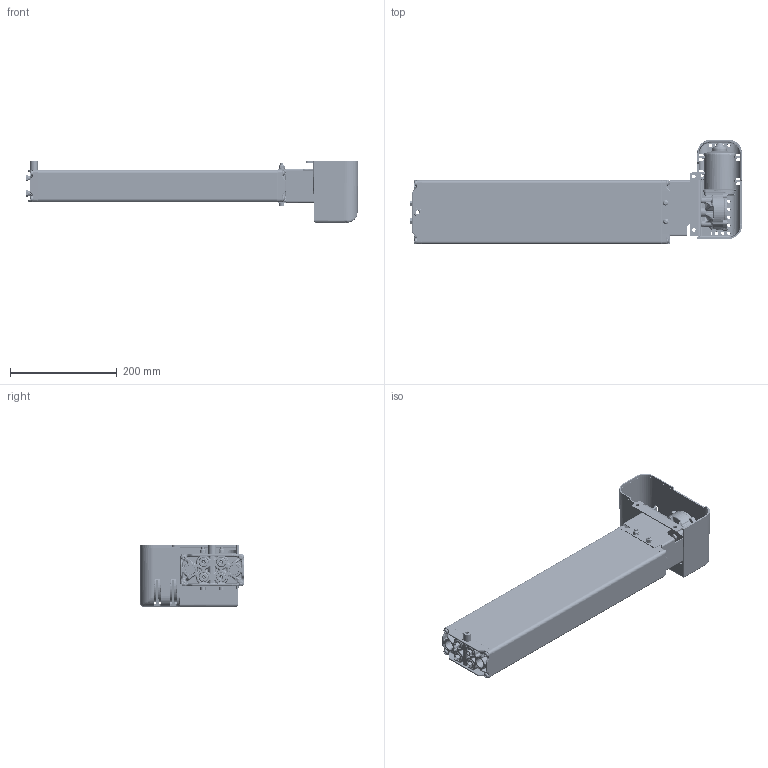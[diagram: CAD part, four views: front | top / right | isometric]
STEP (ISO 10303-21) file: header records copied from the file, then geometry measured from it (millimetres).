
FILE_DESCRIPTION(/* description */ ('Unknown'),/* implementation_level */ '2;1');
FILE_NAME(/* name */ '3X2.20003 Pumpe PB 4830 W mit Antrieb',/* time_stamp */ '2016-09-01T15:26:41+02:00',/* author */ ('Unknown'),/* organization */ ('Unknown'),/* preprocessor_version */ 'ST-DEVELOPER v16.7',/* originating_system */ 'DEX',/* authorisation */ $);
FILE_SCHEMA (('AUTOMOTIVE_DESIGN {1 0 10303 214 3 1 1}'));
Products named in the file (31): 102.20003; 115.00033; 125.00045; 115.00008; 142.00021; 125.00021; 142.00013; 125.00143; 115.00140; 126.00006; 122.00040; 119.00043; 126.00005; 127.00201; 127.00200; 127.00023; 124.00090; Getriebe; Ring; Schraube; Stator; Abdeckplatte; Antriebswelle; 128.00051; 123.00031; 142.00018; 142.00019; 142.00025; 142.00131; 123.00029; 142.00057
Assembly tree (45 placements, depth 3):
  102.20003
    115.00033  x4
      125.00045
      115.00008
      142.00021
      125.00021
    142.00013  x8
    125.00143
    115.00140
      126.00006
      122.00040
    119.00043
    126.00005
    127.00201
      127.00200
      127.00023
    124.00090
      Getriebe
      Ring
      Schraube
      Stator
      Abdeckplatte
      Antriebswelle
    128.00051
    123.00031
    142.00018  x2
    142.00019  x2
    142.00025  x2
    142.00131  x3
    123.00029
    142.00057
Bounding box: 623.42 x 196.04 x 115.45 mm (x, y, z)
Volume: 1110903.2 mm3; surface area: 711599 mm2
Topology: 46 solids, 48 shells, 4762 faces, 12086 edges, 7323 vertices
Faces by surface type: bspline 1367, plane 1289, cylinder 1255, cone 487, torus 266, sphere 98
Full cylindrical faces by diameter (mm): 2.5 x4, 3.2 x4, 3.5 x4, 3.9 x5, 4.1 x4, 4.2 x6, 4.4 x5, 4.5 x1, 4.917 x2, 5 x8, 5.5 x5, 6 x6, 6.4 x2, 6.8 x5, 6.917 x8, 7 x1, 8 x10, 8.5 x6, 9 x2, 9.5 x1, 9.8 x8, 10 x8, 10.3 x1, 10.32 x1, 10.4 x1, 11 x5, 14 x2, 14.4 x4, 15 x1, 17 x1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
Entity records: 202538 total; most frequent: CARTESIAN_POINT 105863, ORIENTED_EDGE 19210, DIRECTION 14202, EDGE_CURVE 9605, VERTEX_POINT 6188, AXIS2_PLACEMENT_3D 5591, FACE_BOUND 4587, EDGE_LOOP 4582
